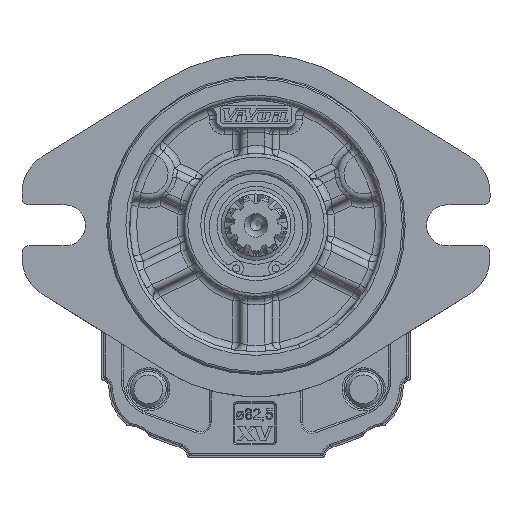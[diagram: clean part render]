
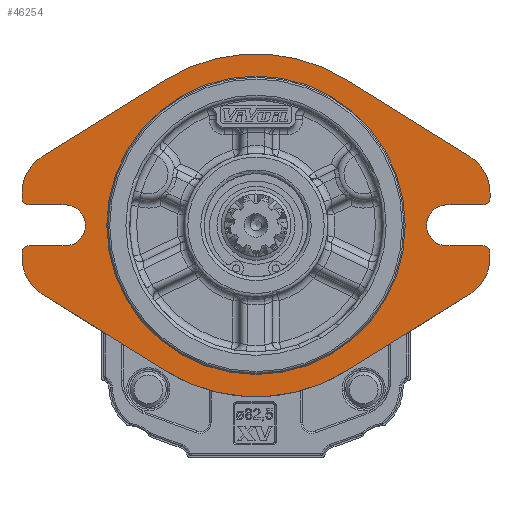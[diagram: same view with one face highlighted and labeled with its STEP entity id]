
A CAD part, front view. The second image highlights one B-rep face of the part: STEP entity #46254.
In plain terms, the highlighted planar face has unit normal (0, -1, 0).
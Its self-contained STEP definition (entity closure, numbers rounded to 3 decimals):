
#2739=LINE('',#65022,#4763);
#2743=LINE('',#65034,#4767);
#2744=LINE('',#65036,#4768);
#2751=LINE('',#65055,#4775);
#2752=LINE('',#65057,#4776);
#2759=LINE('',#65086,#4783);
#2760=LINE('',#65091,#4784);
#2761=LINE('',#65095,#4785);
#2762=LINE('',#65098,#4786);
#2763=LINE('',#65102,#4787);
#2764=LINE('',#65106,#4788);
#2765=LINE('',#65110,#4789);
#4763=VECTOR('',#53388,1000.);
#4767=VECTOR('',#53400,1000.);
#4768=VECTOR('',#53403,1000.);
#4775=VECTOR('',#53418,1000.);
#4776=VECTOR('',#53421,1000.);
#4783=VECTOR('',#53450,1000.);
#4784=VECTOR('',#53453,1000.);
#4785=VECTOR('',#53456,1000.);
#4786=VECTOR('',#53461,1000.);
#4787=VECTOR('',#53464,1000.);
#4788=VECTOR('',#53467,1000.);
#4789=VECTOR('',#53470,1000.);
#6436=PLANE('',#48718);
#9930=ORIENTED_EDGE('',*,*,#18833,.T.);
#9931=ORIENTED_EDGE('',*,*,#18834,.F.);
#9932=ORIENTED_EDGE('',*,*,#18835,.T.);
#9933=ORIENTED_EDGE('',*,*,#18836,.F.);
#9934=ORIENTED_EDGE('',*,*,#18837,.F.);
#9935=ORIENTED_EDGE('',*,*,#18838,.F.);
#9936=ORIENTED_EDGE('',*,*,#18754,.F.);
#9937=ORIENTED_EDGE('',*,*,#18803,.F.);
#9938=ORIENTED_EDGE('',*,*,#18806,.F.);
#9939=ORIENTED_EDGE('',*,*,#18809,.F.);
#9940=ORIENTED_EDGE('',*,*,#18839,.T.);
#9941=ORIENTED_EDGE('',*,*,#18810,.F.);
#9942=ORIENTED_EDGE('',*,*,#18816,.F.);
#9943=ORIENTED_EDGE('',*,*,#18819,.F.);
#9944=ORIENTED_EDGE('',*,*,#18840,.T.);
#9945=ORIENTED_EDGE('',*,*,#18820,.F.);
#9946=ORIENTED_EDGE('',*,*,#18832,.F.);
#9947=ORIENTED_EDGE('',*,*,#18841,.F.);
#9948=ORIENTED_EDGE('',*,*,#18842,.F.);
#9949=ORIENTED_EDGE('',*,*,#18843,.F.);
#9950=ORIENTED_EDGE('',*,*,#18844,.F.);
#9951=ORIENTED_EDGE('',*,*,#18845,.F.);
#9952=ORIENTED_EDGE('',*,*,#18846,.T.);
#9953=ORIENTED_EDGE('',*,*,#18847,.F.);
#9954=ORIENTED_EDGE('',*,*,#18848,.F.);
#18754=EDGE_CURVE('',#23353,#23354,#26006,.T.);
#18803=EDGE_CURVE('',#23396,#23353,#2739,.T.);
#18806=EDGE_CURVE('',#23398,#23396,#26034,.T.);
#18809=EDGE_CURVE('',#23400,#23398,#2743,.T.);
#18810=EDGE_CURVE('',#23401,#23402,#2744,.T.);
#18816=EDGE_CURVE('',#23406,#23401,#26036,.T.);
#18819=EDGE_CURVE('',#23408,#23406,#2751,.T.);
#18820=EDGE_CURVE('',#23409,#23410,#2752,.T.);
#18832=EDGE_CURVE('',#23418,#23409,#26042,.T.);
#18833=EDGE_CURVE('',#23419,#23419,#26043,.T.);
#18834=EDGE_CURVE('',#23420,#23421,#2759,.T.);
#18835=EDGE_CURVE('',#23420,#23422,#26044,.F.);
#18836=EDGE_CURVE('',#23423,#23422,#2760,.T.);
#18837=EDGE_CURVE('',#23424,#23423,#26045,.T.);
#18838=EDGE_CURVE('',#23354,#23424,#2761,.T.);
#18839=EDGE_CURVE('',#23400,#23402,#26046,.F.);
#18840=EDGE_CURVE('',#23408,#23410,#26047,.F.);
#18841=EDGE_CURVE('',#23425,#23418,#2762,.T.);
#18842=EDGE_CURVE('',#23426,#23425,#26048,.T.);
#18843=EDGE_CURVE('',#23427,#23426,#2763,.T.);
#18844=EDGE_CURVE('',#23428,#23427,#26049,.T.);
#18845=EDGE_CURVE('',#23429,#23428,#2764,.T.);
#18846=EDGE_CURVE('',#23429,#23430,#26050,.F.);
#18847=EDGE_CURVE('',#23431,#23430,#2765,.T.);
#18848=EDGE_CURVE('',#23421,#23431,#26051,.T.);
#23353=VERTEX_POINT('',#64922);
#23354=VERTEX_POINT('',#64924);
#23396=VERTEX_POINT('',#65021);
#23398=VERTEX_POINT('',#65027);
#23400=VERTEX_POINT('',#65033);
#23401=VERTEX_POINT('',#65037);
#23402=VERTEX_POINT('',#65038);
#23406=VERTEX_POINT('',#65048);
#23408=VERTEX_POINT('',#65054);
#23409=VERTEX_POINT('',#65058);
#23410=VERTEX_POINT('',#65059);
#23418=VERTEX_POINT('',#65081);
#23419=VERTEX_POINT('',#65085);
#23420=VERTEX_POINT('',#65087);
#23421=VERTEX_POINT('',#65088);
#23422=VERTEX_POINT('',#65090);
#23423=VERTEX_POINT('',#65092);
#23424=VERTEX_POINT('',#65094);
#23425=VERTEX_POINT('',#65099);
#23426=VERTEX_POINT('',#65101);
#23427=VERTEX_POINT('',#65103);
#23428=VERTEX_POINT('',#65105);
#23429=VERTEX_POINT('',#65107);
#23430=VERTEX_POINT('',#65109);
#23431=VERTEX_POINT('',#65111);
#26006=CIRCLE('',#48667,47.75);
#26034=CIRCLE('',#48701,12.);
#26036=CIRCLE('',#48706,5.7);
#26042=CIRCLE('',#48717,12.);
#26043=CIRCLE('',#48719,40.982);
#26044=CIRCLE('',#48720,2.);
#26045=CIRCLE('',#48721,12.);
#26046=CIRCLE('',#48722,2.);
#26047=CIRCLE('',#48723,2.);
#26048=CIRCLE('',#48724,47.75);
#26049=CIRCLE('',#48725,12.);
#26050=CIRCLE('',#48726,2.);
#26051=CIRCLE('',#48727,5.7);
#27744=EDGE_LOOP('',(#9930));
#27745=EDGE_LOOP('',(#9931,#9932,#9933,#9934,#9935,#9936,#9937,#9938,#9939,
#9940,#9941,#9942,#9943,#9944,#9945,#9946,#9947,#9948,#9949,#9950,#9951,
#9952,#9953,#9954));
#30022=FACE_BOUND('',#27744,.T.);
#30023=FACE_BOUND('',#27745,.T.);
#46254=ADVANCED_FACE('',(#30022,#30023),#6436,.F.);
#48667=AXIS2_PLACEMENT_3D('',#64923,#53304,#53305);
#48701=AXIS2_PLACEMENT_3D('',#65028,#53394,#53395);
#48706=AXIS2_PLACEMENT_3D('',#65049,#53412,#53413);
#48717=AXIS2_PLACEMENT_3D('',#65082,#53444,#53445);
#48718=AXIS2_PLACEMENT_3D('',#65083,#53446,#53447);
#48719=AXIS2_PLACEMENT_3D('',#65084,#53448,#53449);
#48720=AXIS2_PLACEMENT_3D('',#65089,#53451,#53452);
#48721=AXIS2_PLACEMENT_3D('',#65093,#53454,#53455);
#48722=AXIS2_PLACEMENT_3D('',#65096,#53457,#53458);
#48723=AXIS2_PLACEMENT_3D('',#65097,#53459,#53460);
#48724=AXIS2_PLACEMENT_3D('',#65100,#53462,#53463);
#48725=AXIS2_PLACEMENT_3D('',#65104,#53465,#53466);
#48726=AXIS2_PLACEMENT_3D('',#65108,#53468,#53469);
#48727=AXIS2_PLACEMENT_3D('',#65112,#53471,#53472);
#53304=DIRECTION('',(0.,1.,0.));
#53305=DIRECTION('',(-1.,0.,0.));
#53388=DIRECTION('',(-0.849,0.,-0.528));
#53394=DIRECTION('',(0.,1.,0.));
#53395=DIRECTION('',(-1.,0.,0.));
#53400=DIRECTION('',(0.,0.,-1.));
#53403=DIRECTION('',(1.,0.,0.));
#53412=DIRECTION('',(0.,-1.,0.));
#53413=DIRECTION('',(1.,0.,0.));
#53418=DIRECTION('',(-1.,0.,0.));
#53421=DIRECTION('',(0.,0.,-1.));
#53444=DIRECTION('',(0.,1.,0.));
#53445=DIRECTION('',(-1.,0.,0.));
#53446=DIRECTION('',(0.,1.,0.));
#53447=DIRECTION('',(0.,0.,-1.));
#53448=DIRECTION('',(0.,1.,0.));
#53449=DIRECTION('',(-1.,0.,0.));
#53450=DIRECTION('',(1.,0.,0.));
#53451=DIRECTION('',(0.,1.,0.));
#53452=DIRECTION('',(0.,0.,-1.));
#53453=DIRECTION('',(0.,0.,1.));
#53454=DIRECTION('',(0.,1.,0.));
#53455=DIRECTION('',(1.,0.,0.));
#53456=DIRECTION('',(-0.849,0.,0.528));
#53457=DIRECTION('',(0.,1.,0.));
#53458=DIRECTION('',(0.,0.,-1.));
#53459=DIRECTION('',(0.,1.,0.));
#53460=DIRECTION('',(0.,0.,-1.));
#53461=DIRECTION('',(0.849,0.,-0.528));
#53462=DIRECTION('',(0.,1.,0.));
#53463=DIRECTION('',(-1.,0.,0.));
#53464=DIRECTION('',(0.849,0.,0.528));
#53465=DIRECTION('',(0.,1.,0.));
#53466=DIRECTION('',(1.,0.,0.));
#53467=DIRECTION('',(0.,0.,1.));
#53468=DIRECTION('',(0.,1.,0.));
#53469=DIRECTION('',(0.,0.,-1.));
#53470=DIRECTION('',(-1.,0.,0.));
#53471=DIRECTION('',(0.,-1.,0.));
#53472=DIRECTION('',(-1.,0.,0.));
#64922=CARTESIAN_POINT('',(25.235,-19.,-24.837));
#64923=CARTESIAN_POINT('',(0.,-19.,15.7));
#64924=CARTESIAN_POINT('',(-25.235,-19.,-24.837));
#65021=CARTESIAN_POINT('',(59.532,-19.,-3.487));
#65022=CARTESIAN_POINT('',(59.532,-19.,-3.487));
#65027=CARTESIAN_POINT('',(65.19,-19.,6.7));
#65028=CARTESIAN_POINT('',(53.19,-19.,6.7));
#65033=CARTESIAN_POINT('',(65.19,-19.,8.));
#65034=CARTESIAN_POINT('',(65.19,-19.,6.7));
#65036=CARTESIAN_POINT('',(53.19,-19.,10.));
#65037=CARTESIAN_POINT('',(53.19,-19.,10.));
#65038=CARTESIAN_POINT('',(63.19,-19.,10.));
#65048=CARTESIAN_POINT('',(53.19,-19.,21.4));
#65049=CARTESIAN_POINT('',(53.19,-19.,15.7));
#65054=CARTESIAN_POINT('',(63.19,-19.,21.4));
#65055=CARTESIAN_POINT('',(53.19,-19.,21.4));
#65057=CARTESIAN_POINT('',(65.19,-19.,24.7));
#65058=CARTESIAN_POINT('',(65.19,-19.,24.7));
#65059=CARTESIAN_POINT('',(65.19,-19.,23.4));
#65081=CARTESIAN_POINT('',(59.532,-19.,34.887));
#65082=CARTESIAN_POINT('',(53.19,-19.,24.7));
#65083=CARTESIAN_POINT('',(0.,-19.,15.7));
#65084=CARTESIAN_POINT('',(0.,-19.,15.7));
#65085=CARTESIAN_POINT('',(-40.982,-19.,15.7));
#65086=CARTESIAN_POINT('',(-53.19,-19.,10.));
#65087=CARTESIAN_POINT('',(-63.19,-19.,10.));
#65088=CARTESIAN_POINT('',(-53.19,-19.,10.));
#65089=CARTESIAN_POINT('',(-63.19,-19.,8.));
#65090=CARTESIAN_POINT('',(-65.19,-19.,8.));
#65091=CARTESIAN_POINT('',(-65.19,-19.,6.7));
#65092=CARTESIAN_POINT('',(-65.19,-19.,6.7));
#65093=CARTESIAN_POINT('',(-53.19,-19.,6.7));
#65094=CARTESIAN_POINT('',(-59.532,-19.,-3.487));
#65095=CARTESIAN_POINT('',(-59.532,-19.,-3.487));
#65096=CARTESIAN_POINT('',(63.19,-19.,8.));
#65097=CARTESIAN_POINT('',(63.19,-19.,23.4));
#65098=CARTESIAN_POINT('',(25.235,-19.,56.237));
#65099=CARTESIAN_POINT('',(25.235,-19.,56.237));
#65100=CARTESIAN_POINT('',(0.,-19.,15.7));
#65101=CARTESIAN_POINT('',(-25.235,-19.,56.237));
#65102=CARTESIAN_POINT('',(-25.235,-19.,56.237));
#65103=CARTESIAN_POINT('',(-59.532,-19.,34.887));
#65104=CARTESIAN_POINT('',(-53.19,-19.,24.7));
#65105=CARTESIAN_POINT('',(-65.19,-19.,24.7));
#65106=CARTESIAN_POINT('',(-65.19,-19.,24.7));
#65107=CARTESIAN_POINT('',(-65.19,-19.,23.4));
#65108=CARTESIAN_POINT('',(-63.19,-19.,23.4));
#65109=CARTESIAN_POINT('',(-63.19,-19.,21.4));
#65110=CARTESIAN_POINT('',(-53.19,-19.,21.4));
#65111=CARTESIAN_POINT('',(-53.19,-19.,21.4));
#65112=CARTESIAN_POINT('',(-53.19,-19.,15.7));
